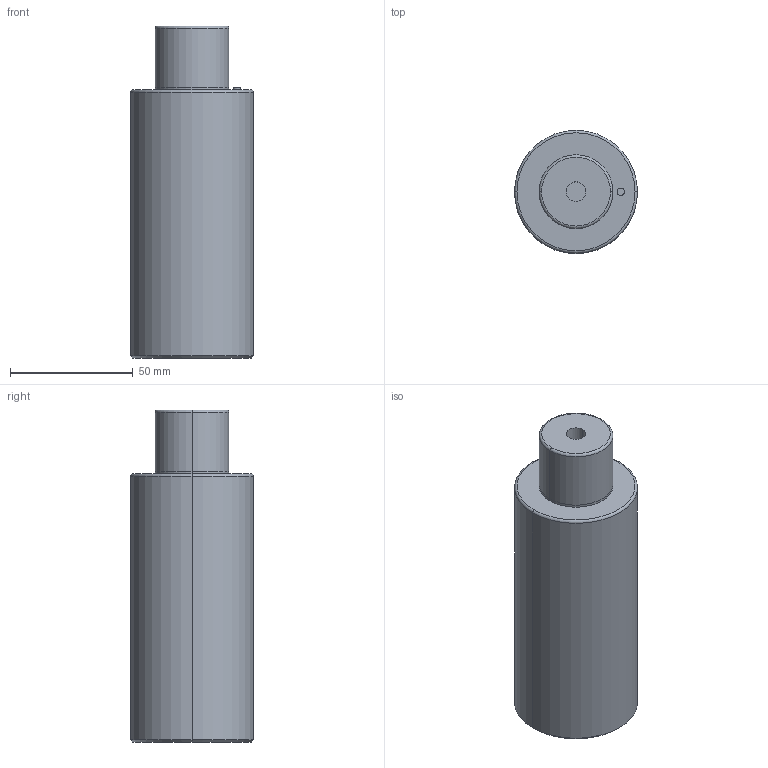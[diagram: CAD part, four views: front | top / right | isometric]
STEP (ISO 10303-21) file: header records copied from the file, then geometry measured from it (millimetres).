
FILE_DESCRIPTION(/* description */ (''),/* implementation_level */ '2;1');
FILE_NAME(/* name */ '3d_gssr50-25_03954_r00.stp',/* time_stamp */ '2011-01-10T14:15:14+09:00',/* author */ ('MISUMI'),/* organization */ (''),/* preprocessor_version */ 'ST-DEVELOPER v11',/* originating_system */ 'UGS - NX 5.0',/* authorisation */ '');
FILE_SCHEMA (('CONFIG_CONTROL_DESIGN'));
Length unit declared in the file: millimetre
Products named in the file (1): 3d_gssr50-25_03954_r00
Bounding box: 50 x 50 x 135 mm (x, y, z)
Volume: 228752.5 mm3; surface area: 25087.6 mm2
Topology: 1 solids, 1 shells, 42 faces, 88 edges, 51 vertices
Faces by surface type: cylinder 22, plane 8, cone 8, torus 4
Entity records: 1176 total; most frequent: DIRECTION 220, CARTESIAN_POINT 176, ORIENTED_EDGE 164, AXIS2_PLACEMENT_3D 95, EDGE_CURVE 82, CIRCLE 52, EDGE_LOOP 51, VERTEX_POINT 51
